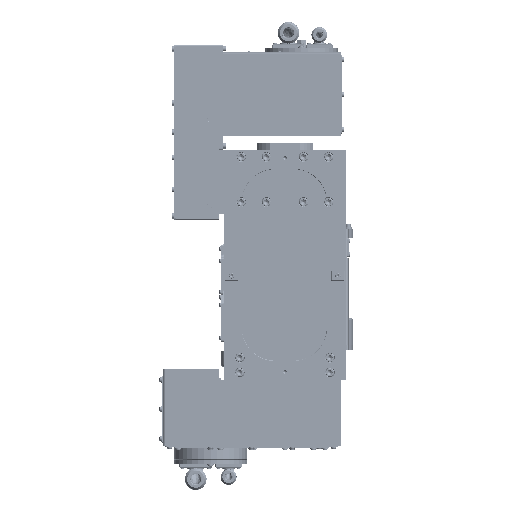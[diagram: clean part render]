
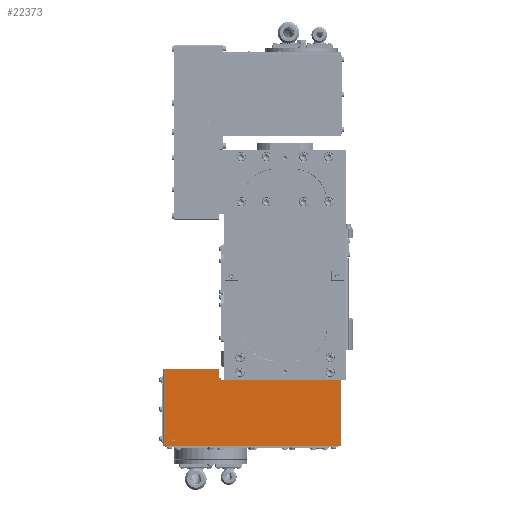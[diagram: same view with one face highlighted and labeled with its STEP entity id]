
A CAD part, front view. The second image highlights one B-rep face of the part: STEP entity #22373.
In plain terms, the highlighted planar face has unit normal (0, -1, 0).
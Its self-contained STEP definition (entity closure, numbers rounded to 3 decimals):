
#3972 = LINE ( 'NONE', #139043, #130285 ) ;
#6367 = VERTEX_POINT ( 'NONE', #231010 ) ;
#8207 = EDGE_LOOP ( 'NONE', ( #25506, #117221 ) ) ;
#15068 = DIRECTION ( 'NONE',  ( -1., 0., 0. ) ) ;
#15273 = VERTEX_POINT ( 'NONE', #278060 ) ;
#15711 = DIRECTION ( 'NONE',  ( 1., 0., 0. ) ) ;
#19437 = LINE ( 'NONE', #315870, #40841 ) ;
#19945 = EDGE_LOOP ( 'NONE', ( #344769, #155215, #260108, #203618, #167507, #59621, #138420, #93644, #44480 ) ) ;
#22373 = ADVANCED_FACE ( 'NONE', ( #316704, #120817 ), #124308, .T. ) ;
#22699 = DIRECTION ( 'NONE',  ( 0., 0., -1. ) ) ;
#25506 = ORIENTED_EDGE ( 'NONE', *, *, #76125, .F. ) ;
#26674 = AXIS2_PLACEMENT_3D ( 'NONE', #121988, #102540, #95585 ) ;
#27307 = DIRECTION ( 'NONE',  ( 0., -1., 0. ) ) ;
#35005 = EDGE_CURVE ( 'NONE', #48239, #6367, #210559, .T. ) ;
#36712 = DIRECTION ( 'NONE',  ( 0., 0., -1. ) ) ;
#37478 = CARTESIAN_POINT ( 'NONE',  ( 124., -176., 105. ) ) ;
#40841 = VECTOR ( 'NONE', #77287, 1000. ) ;
#44346 = AXIS2_PLACEMENT_3D ( 'NONE', #257668, #276995, #36712 ) ;
#44480 = ORIENTED_EDGE ( 'NONE', *, *, #162771, .F. ) ;
#48239 = VERTEX_POINT ( 'NONE', #120303 ) ;
#55692 = VECTOR ( 'NONE', #88058, 1000. ) ;
#59621 = ORIENTED_EDGE ( 'NONE', *, *, #266816, .T. ) ;
#61860 = VERTEX_POINT ( 'NONE', #95060 ) ;
#68942 = EDGE_CURVE ( 'NONE', #15273, #94384, #276572, .T. ) ;
#76125 = EDGE_CURVE ( 'NONE', #6367, #48239, #161198, .T. ) ;
#77287 = DIRECTION ( 'NONE',  ( 1., 0., 0. ) ) ;
#79197 = DIRECTION ( 'NONE',  ( 0., 0., 1. ) ) ;
#83827 = VECTOR ( 'NONE', #15711, 1000. ) ;
#86769 = CARTESIAN_POINT ( 'NONE',  ( -19., -176., -127. ) ) ;
#88058 = DIRECTION ( 'NONE',  ( 0., 0., -1. ) ) ;
#93644 = ORIENTED_EDGE ( 'NONE', *, *, #167831, .T. ) ;
#93977 = EDGE_CURVE ( 'NONE', #291195, #183273, #19437, .T. ) ;
#94384 = VERTEX_POINT ( 'NONE', #265855 ) ;
#95060 = CARTESIAN_POINT ( 'NONE',  ( -21., -176., -127. ) ) ;
#95585 = DIRECTION ( 'NONE',  ( 0., 0., -1. ) ) ;
#99962 = EDGE_CURVE ( 'NONE', #183596, #291195, #158227, .T. ) ;
#102540 = DIRECTION ( 'NONE',  ( 0., -1., 0. ) ) ;
#117221 = ORIENTED_EDGE ( 'NONE', *, *, #35005, .F. ) ;
#120303 = CARTESIAN_POINT ( 'NONE',  ( 114., -176., -207.9 ) ) ;
#120817 = FACE_BOUND ( 'NONE', #8207, .T. ) ;
#121988 = CARTESIAN_POINT ( 'NONE',  ( 114., -176., -210. ) ) ;
#124308 = PLANE ( 'NONE',  #44346 ) ;
#130285 = VECTOR ( 'NONE', #135628, 1000. ) ;
#135628 = DIRECTION ( 'NONE',  ( 0., 0., -1. ) ) ;
#138420 = ORIENTED_EDGE ( 'NONE', *, *, #166496, .T. ) ;
#139043 = CARTESIAN_POINT ( 'NONE',  ( 124., -176., 105. ) ) ;
#143226 = EDGE_CURVE ( 'NONE', #319229, #15273, #227906, .T. ) ;
#144054 = CARTESIAN_POINT ( 'NONE',  ( 0., -176., -120. ) ) ;
#149091 = LINE ( 'NONE', #173791, #83827 ) ;
#152467 = DIRECTION ( 'NONE',  ( 0., 0., -1. ) ) ;
#155215 = ORIENTED_EDGE ( 'NONE', *, *, #99962, .F. ) ;
#158227 = LINE ( 'NONE', #288011, #314364 ) ;
#161198 = CIRCLE ( 'NONE', #26674, 2.1 ) ;
#161200 = DIRECTION ( 'NONE',  ( 0., -1., 0. ) ) ;
#162742 = AXIS2_PLACEMENT_3D ( 'NONE', #86769, #27307, #167653 ) ;
#162771 = EDGE_CURVE ( 'NONE', #183273, #198755, #3972, .T. ) ;
#166496 = EDGE_CURVE ( 'NONE', #61860, #204043, #256011, .T. ) ;
#167507 = ORIENTED_EDGE ( 'NONE', *, *, #68942, .T. ) ;
#167653 = DIRECTION ( 'NONE',  ( 0., 0., -1. ) ) ;
#167831 = EDGE_CURVE ( 'NONE', #204043, #198755, #149091, .T. ) ;
#173791 = CARTESIAN_POINT ( 'NONE',  ( -21., -176., -225. ) ) ;
#174038 = CIRCLE ( 'NONE', #162742, 2. ) ;
#175691 = VECTOR ( 'NONE', #152467, 1000. ) ;
#177146 = CARTESIAN_POINT ( 'NONE',  ( -21., -176., 105. ) ) ;
#183273 = VERTEX_POINT ( 'NONE', #37478 ) ;
#183596 = VERTEX_POINT ( 'NONE', #144054 ) ;
#193786 = AXIS2_PLACEMENT_3D ( 'NONE', #210358, #161200, #22699 ) ;
#198755 = VERTEX_POINT ( 'NONE', #216154 ) ;
#203618 = ORIENTED_EDGE ( 'NONE', *, *, #143226, .T. ) ;
#204043 = VERTEX_POINT ( 'NONE', #327522 ) ;
#210358 = CARTESIAN_POINT ( 'NONE',  ( 114., -176., -210. ) ) ;
#210559 = CIRCLE ( 'NONE', #193786, 2.1 ) ;
#216154 = CARTESIAN_POINT ( 'NONE',  ( 124., -176., -225. ) ) ;
#218871 = LINE ( 'NONE', #269779, #264812 ) ;
#223963 = CARTESIAN_POINT ( 'NONE',  ( 6., -176., -125. ) ) ;
#227906 = LINE ( 'NONE', #285740, #175691 ) ;
#231010 = CARTESIAN_POINT ( 'NONE',  ( 114., -176., -212.1 ) ) ;
#240062 = VECTOR ( 'NONE', #15068, 1000. ) ;
#256011 = LINE ( 'NONE', #177146, #55692 ) ;
#257668 = CARTESIAN_POINT ( 'NONE',  ( -21., -176., 105. ) ) ;
#260108 = ORIENTED_EDGE ( 'NONE', *, *, #309020, .T. ) ;
#264812 = VECTOR ( 'NONE', #297812, 1000. ) ;
#265855 = CARTESIAN_POINT ( 'NONE',  ( -19., -176., -125. ) ) ;
#266816 = EDGE_CURVE ( 'NONE', #94384, #61860, #174038, .T. ) ;
#269779 = CARTESIAN_POINT ( 'NONE',  ( 359.981, -176., -120. ) ) ;
#276572 = LINE ( 'NONE', #223963, #240062 ) ;
#276995 = DIRECTION ( 'NONE',  ( 0., -1., 0. ) ) ;
#278060 = CARTESIAN_POINT ( 'NONE',  ( -3., -176., -125. ) ) ;
#285740 = CARTESIAN_POINT ( 'NONE',  ( -3., -176., -125. ) ) ;
#288011 = CARTESIAN_POINT ( 'NONE',  ( 0., -176., -120. ) ) ;
#291195 = VERTEX_POINT ( 'NONE', #309462 ) ;
#291273 = CARTESIAN_POINT ( 'NONE',  ( -3., -176., -120. ) ) ;
#297812 = DIRECTION ( 'NONE',  ( -1., 0., 0. ) ) ;
#309020 = EDGE_CURVE ( 'NONE', #183596, #319229, #218871, .T. ) ;
#309462 = CARTESIAN_POINT ( 'NONE',  ( 0., -176., 105. ) ) ;
#314364 = VECTOR ( 'NONE', #79197, 1000. ) ;
#315870 = CARTESIAN_POINT ( 'NONE',  ( -21., -176., 105. ) ) ;
#316704 = FACE_OUTER_BOUND ( 'NONE', #19945, .T. ) ;
#319229 = VERTEX_POINT ( 'NONE', #291273 ) ;
#327522 = CARTESIAN_POINT ( 'NONE',  ( -21., -176., -225. ) ) ;
#344769 = ORIENTED_EDGE ( 'NONE', *, *, #93977, .F. ) ;
